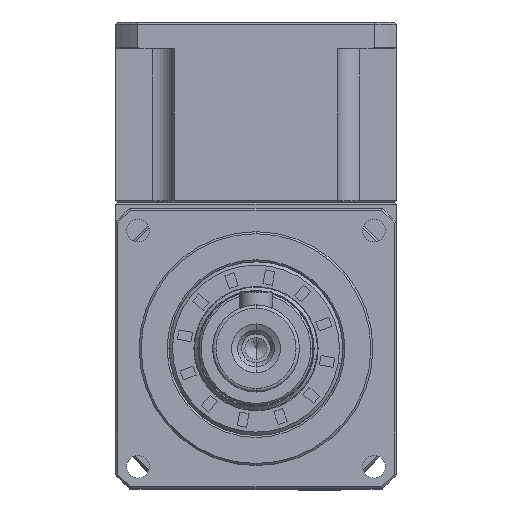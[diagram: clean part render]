
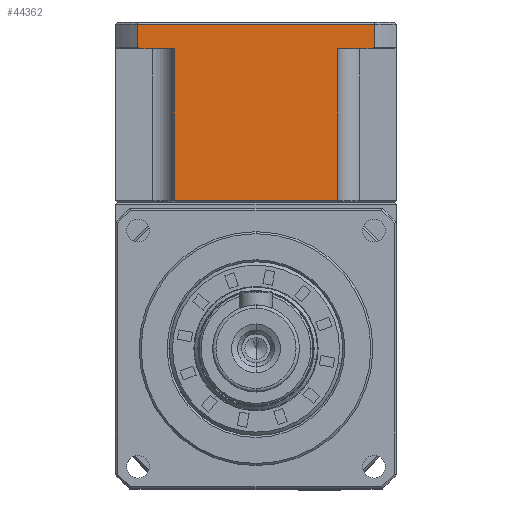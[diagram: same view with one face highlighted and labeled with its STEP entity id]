
A CAD part, top view. The second image highlights one B-rep face of the part: STEP entity #44362.
In plain terms, the highlighted planar face has unit normal (0, 0, 1).
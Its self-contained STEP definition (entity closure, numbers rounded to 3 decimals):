
#112 = CARTESIAN_POINT ( 'NONE',  ( 19.943, 76.656, 11.539 ) ) ;
#200 = LINE ( 'NONE', #8771, #80623 ) ;
#2052 = ORIENTED_EDGE ( 'NONE', *, *, #71331, .T. ) ;
#3985 = EDGE_LOOP ( 'NONE', ( #26414, #39624, #31424, #24290, #2052, #21019, #22147, #45888, #23601, #63928 ) ) ;
#5532 = EDGE_CURVE ( 'NONE', #41229, #64117, #32120, .T. ) ;
#5784 = EDGE_CURVE ( 'NONE', #41229, #62315, #32780, .T. ) ;
#6785 = CARTESIAN_POINT ( 'NONE',  ( 49.818, 53.79, 11.539 ) ) ;
#7529 = CARTESIAN_POINT ( 'NONE',  ( 58.568, 53.79, 11.539 ) ) ;
#8288 = CARTESIAN_POINT ( 'NONE',  ( 54.934, 76.49, 11.539 ) ) ;
#8366 = DIRECTION ( 'NONE',  ( 1., 0., 0. ) ) ;
#8771 = CARTESIAN_POINT ( 'NONE',  ( 58.568, 76.49, 11.539 ) ) ;
#8794 = DIRECTION ( 'NONE',  ( 0., 0., 1. ) ) ;
#10200 = CARTESIAN_POINT ( 'NONE',  ( 25.318, 76.49, 11.539 ) ) ;
#11537 = CARTESIAN_POINT ( 'NONE',  ( 58.568, 80.19, 11.539 ) ) ;
#11919 = CARTESIAN_POINT ( 'NONE',  ( 19.813, 80.19, 11.539 ) ) ;
#12249 = EDGE_CURVE ( 'NONE', #25361, #54170, #200, .T. ) ;
#12722 = FACE_OUTER_BOUND ( 'NONE', #3985, .T. ) ;
#12962 = LINE ( 'NONE', #36928, #27843 ) ;
#13937 = DIRECTION ( 'NONE',  ( 1., 0., 0. ) ) ;
#15718 = EDGE_CURVE ( 'NONE', #33325, #64117, #49651, .T. ) ;
#18192 = DIRECTION ( 'NONE',  ( 1., 0., 0. ) ) ;
#18659 = CARTESIAN_POINT ( 'NONE',  ( 49.818, 53.49, 11.539 ) ) ;
#19000 = CARTESIAN_POINT ( 'NONE',  ( 19.813, 76.74, 11.539 ) ) ;
#21019 = ORIENTED_EDGE ( 'NONE', *, *, #61025, .T. ) ;
#21872 = AXIS2_PLACEMENT_3D ( 'NONE', #46871, #8794, #53272 ) ;
#22147 = ORIENTED_EDGE ( 'NONE', *, *, #15718, .T. ) ;
#23601 = ORIENTED_EDGE ( 'NONE', *, *, #5784, .T. ) ;
#24290 = ORIENTED_EDGE ( 'NONE', *, *, #52139, .T. ) ;
#25249 = DIRECTION ( 'NONE',  ( 0., 1., 0. ) ) ;
#25361 = VERTEX_POINT ( 'NONE', #25482 ) ;
#25482 = CARTESIAN_POINT ( 'NONE',  ( 20.203, 76.49, 11.539 ) ) ;
#25913 = CARTESIAN_POINT ( 'NONE',  ( 55.323, 80.19, 11.539 ) ) ;
#26379 = EDGE_CURVE ( 'NONE', #31393, #25361, #71522, .T. ) ;
#26414 = ORIENTED_EDGE ( 'NONE', *, *, #28273, .F. ) ;
#27843 = VECTOR ( 'NONE', #62720, 1000. ) ;
#28273 = EDGE_CURVE ( 'NONE', #31393, #49397, #12962, .T. ) ;
#29408 = CARTESIAN_POINT ( 'NONE',  ( 19.813, 76.74, 11.539 ) ) ;
#30938 = VECTOR ( 'NONE', #25249, 1000. ) ;
#31393 = VERTEX_POINT ( 'NONE', #29408 ) ;
#31424 = ORIENTED_EDGE ( 'NONE', *, *, #12249, .T. ) ;
#31436 = CARTESIAN_POINT ( 'NONE',  ( 55.323, 76.74, 11.539 ) ) ;
#32022 = CARTESIAN_POINT ( 'NONE',  ( 20.072, 76.573, 11.539 ) ) ;
#32120 = B_SPLINE_CURVE_WITH_KNOTS ( 'NONE', 3,
 ( #32766, #64395, #64121, #77105 ),
 .UNSPECIFIED., .F., .F.,
 ( 4, 4 ),
 ( 0., 0. ),
 .UNSPECIFIED. ) ;
#32228 = VECTOR ( 'NONE', #34684, 1000. ) ;
#32766 = CARTESIAN_POINT ( 'NONE',  ( 55.323, 76.74, 11.539 ) ) ;
#32780 = LINE ( 'NONE', #37146, #66526 ) ;
#33325 = VERTEX_POINT ( 'NONE', #71353 ) ;
#34214 = LINE ( 'NONE', #66324, #32228 ) ;
#34684 = DIRECTION ( 'NONE',  ( 0., -1., 0. ) ) ;
#36928 = CARTESIAN_POINT ( 'NONE',  ( 19.813, 33.326, 11.539 ) ) ;
#37146 = CARTESIAN_POINT ( 'NONE',  ( 55.323, 53.49, 11.539 ) ) ;
#39624 = ORIENTED_EDGE ( 'NONE', *, *, #26379, .T. ) ;
#40163 = DIRECTION ( 'NONE',  ( 1., 0., 0. ) ) ;
#41229 = VERTEX_POINT ( 'NONE', #31436 ) ;
#42179 = LINE ( 'NONE', #7529, #73916 ) ;
#44362 = ADVANCED_FACE ( 'NONE', ( #12722 ), #59077, .T. ) ;
#44510 = LINE ( 'NONE', #11537, #59393 ) ;
#45888 = ORIENTED_EDGE ( 'NONE', *, *, #5532, .F. ) ;
#46871 = CARTESIAN_POINT ( 'NONE',  ( 58.568, 53.49, 11.539 ) ) ;
#47639 = VECTOR ( 'NONE', #8366, 1000. ) ;
#47809 = LINE ( 'NONE', #18659, #30938 ) ;
#49397 = VERTEX_POINT ( 'NONE', #11919 ) ;
#49651 = LINE ( 'NONE', #52841, #47639 ) ;
#52139 = EDGE_CURVE ( 'NONE', #54170, #76973, #34214, .T. ) ;
#52841 = CARTESIAN_POINT ( 'NONE',  ( 58.568, 76.49, 11.539 ) ) ;
#53272 = DIRECTION ( 'NONE',  ( -1., 0., 0. ) ) ;
#54170 = VERTEX_POINT ( 'NONE', #10200 ) ;
#59077 = PLANE ( 'NONE',  #21872 ) ;
#59393 = VECTOR ( 'NONE', #18192, 1000. ) ;
#61025 = EDGE_CURVE ( 'NONE', #77940, #33325, #47809, .T. ) ;
#62315 = VERTEX_POINT ( 'NONE', #25913 ) ;
#62720 = DIRECTION ( 'NONE',  ( 0., 1., 0. ) ) ;
#63928 = ORIENTED_EDGE ( 'NONE', *, *, #76142, .F. ) ;
#64117 = VERTEX_POINT ( 'NONE', #8288 ) ;
#64121 = CARTESIAN_POINT ( 'NONE',  ( 55.064, 76.573, 11.539 ) ) ;
#64395 = CARTESIAN_POINT ( 'NONE',  ( 55.194, 76.656, 11.539 ) ) ;
#66324 = CARTESIAN_POINT ( 'NONE',  ( 25.318, 53.49, 11.539 ) ) ;
#66526 = VECTOR ( 'NONE', #81226, 1000. ) ;
#71331 = EDGE_CURVE ( 'NONE', #76973, #77940, #42179, .T. ) ;
#71353 = CARTESIAN_POINT ( 'NONE',  ( 49.818, 76.49, 11.539 ) ) ;
#71522 = B_SPLINE_CURVE_WITH_KNOTS ( 'NONE', 3,
 ( #19000, #112, #32022, #76388 ),
 .UNSPECIFIED., .F., .F.,
 ( 4, 4 ),
 ( 0., 0. ),
 .UNSPECIFIED. ) ;
#73916 = VECTOR ( 'NONE', #13937, 1000. ) ;
#76142 = EDGE_CURVE ( 'NONE', #49397, #62315, #44510, .T. ) ;
#76388 = CARTESIAN_POINT ( 'NONE',  ( 20.203, 76.49, 11.539 ) ) ;
#76973 = VERTEX_POINT ( 'NONE', #77978 ) ;
#77105 = CARTESIAN_POINT ( 'NONE',  ( 54.934, 76.49, 11.539 ) ) ;
#77940 = VERTEX_POINT ( 'NONE', #6785 ) ;
#77978 = CARTESIAN_POINT ( 'NONE',  ( 25.318, 53.79, 11.539 ) ) ;
#80623 = VECTOR ( 'NONE', #40163, 1000. ) ;
#81226 = DIRECTION ( 'NONE',  ( 0., 1., 0. ) ) ;
